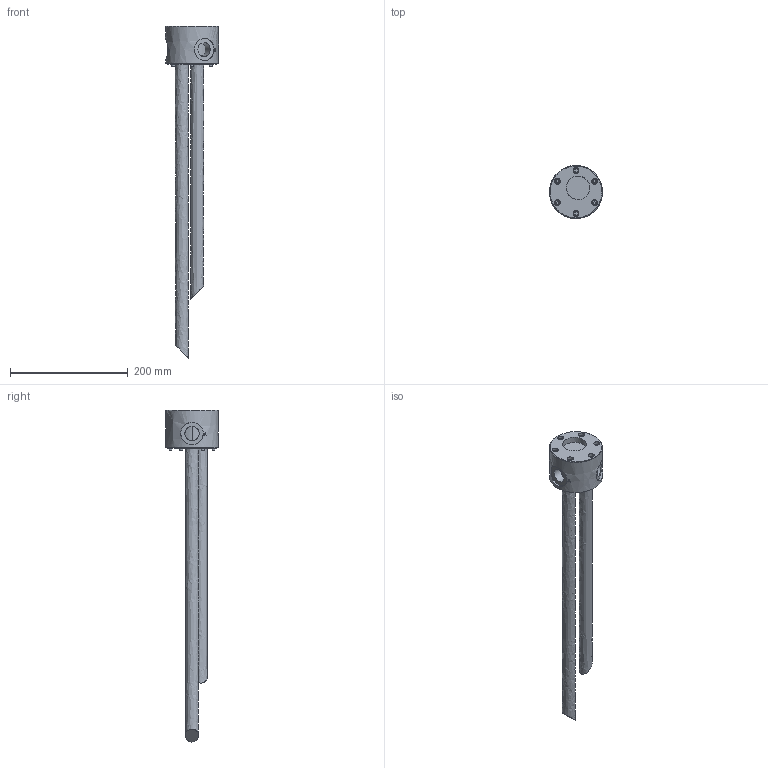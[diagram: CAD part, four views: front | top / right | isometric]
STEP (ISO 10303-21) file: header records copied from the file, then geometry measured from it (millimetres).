
FILE_DESCRIPTION((''),'2;1');
FILE_NAME('U:\Users\r.stiegele\fna008_1700(11737400).stp', '2014-02-24T15:14:04',('User'),('SDRC'),'I-DEAS Master Series 9','UNIX', 'Yes');
FILE_SCHEMA(('AUTOMOTIVE_DESIGN { 1 0 10303 214 1 1 1 1 }'));
Length unit declared in the file: millimetre
Products named in the file (1): 11737400(324508)
Bounding box: 90 x 89.92 x 563.5 mm (x, y, z)
Volume: 709621.4 mm3; surface area: 102683.5 mm2
Topology: 1 solids, 7 shells, 207 faces, 412 edges, 269 vertices
Faces by surface type: bspline 207
Entity records: 6422 total; most frequent: CARTESIAN_POINT 3703, ORIENTED_EDGE 824, EDGE_CURVE 412, VERTEX_POINT 269, EDGE_LOOP 269, FACE_OUTER_BOUND 207, ADVANCED_FACE 207, QUASI_UNIFORM_CURVE 186
